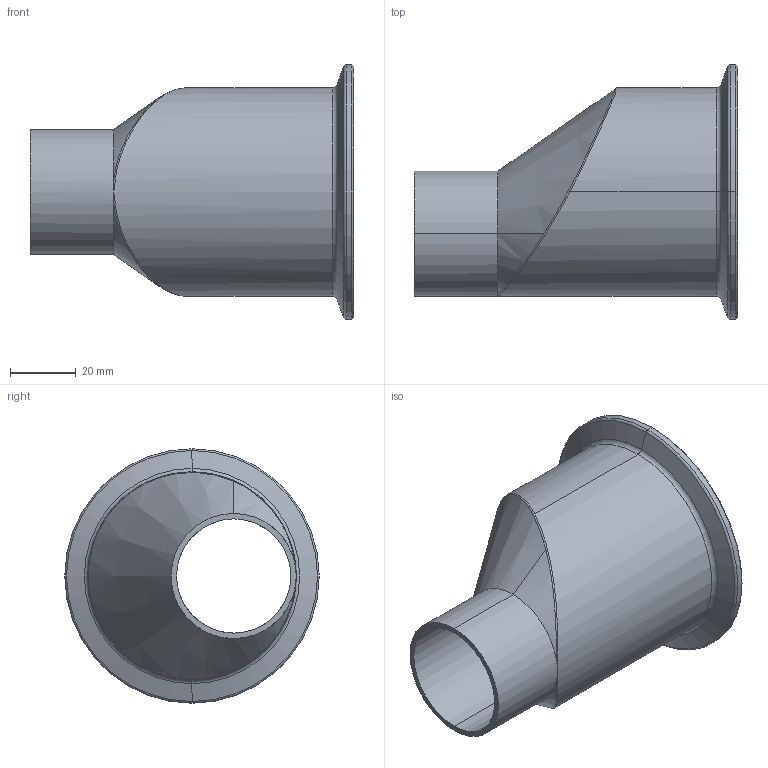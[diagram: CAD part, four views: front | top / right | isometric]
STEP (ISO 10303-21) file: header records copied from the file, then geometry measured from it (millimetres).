
FILE_DESCRIPTION (( 'STEP AP214' ), '1' );
FILE_NAME ('TE32SCW6L2.5x1.5-...STEP', '2016-06-01T10:02:44', ( 'eran' ), ( '' ), 'SwSTEP 2.0', 'SolidWorks 2016', '' );
FILE_SCHEMA (( 'AUTOMOTIVE_DESIGN' ));
Length unit declared in the file: millimetre
Products named in the file (1): TE32SCW6L2.5x1.5-..
Bounding box: 98.42 x 77.5 x 77.5 mm (x, y, z)
Volume: 96320.4 mm3; surface area: 33992.9 mm2
Topology: 1 solids, 1 shells, 47 faces, 104 edges, 56 vertices
Faces by surface type: cone 16, torus 13, cylinder 10, bspline 5, plane 3
Entity records: 2057 total; most frequent: CARTESIAN_POINT 1020, DIRECTION 228, ORIENTED_EDGE 200, AXIS2_PLACEMENT_3D 102, EDGE_CURVE 100, CIRCLE 59, VERTEX_POINT 56, EDGE_LOOP 50
